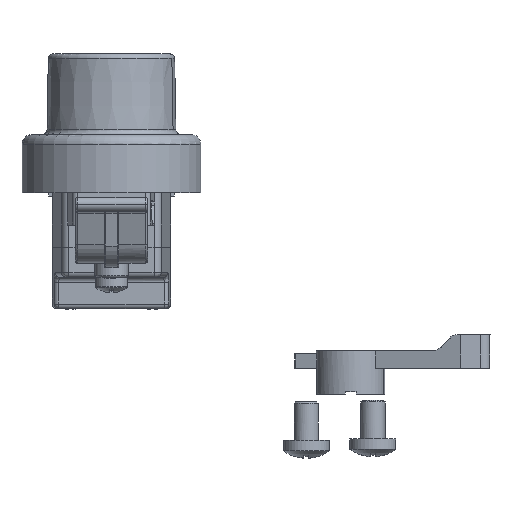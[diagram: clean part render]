
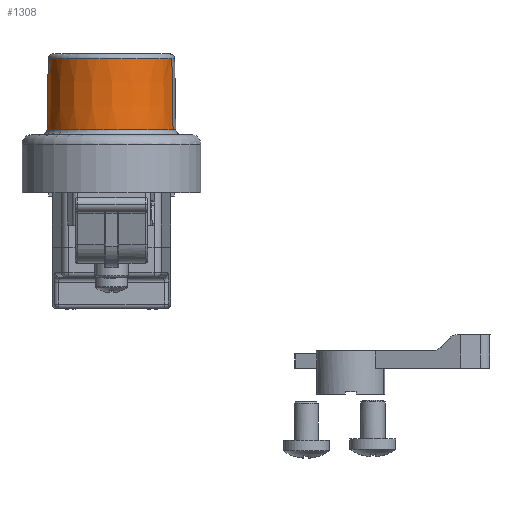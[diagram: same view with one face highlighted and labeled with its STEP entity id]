
A CAD part, front view. The second image highlights one B-rep face of the part: STEP entity #1308.
In plain terms, the highlighted conical face has half-angle 1 degrees and reference radius 13.093 mm.
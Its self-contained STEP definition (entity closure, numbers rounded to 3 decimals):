
#1308=ADVANCED_FACE('',(#5421),#5422,.T.);
#5421=FACE_OUTER_BOUND('',#24027,.T.);
#5422=CONICAL_SURFACE('',#24028,13.093,0.017);
#24027=EDGE_LOOP('',(#40450,#40451,#40452,#40453));
#24028=AXIS2_PLACEMENT_3D('',#40454,#40455,#40456);
#40450=ORIENTED_EDGE('',*,*,#59119,.F.);
#40451=ORIENTED_EDGE('',*,*,#59120,.T.);
#40452=ORIENTED_EDGE('',*,*,#59121,.T.);
#40453=ORIENTED_EDGE('',*,*,#59122,.F.);
#40454=CARTESIAN_POINT('',(157.607,149.494,156.68));
#40455=DIRECTION('',(0.,0.,-1.));
#40456=DIRECTION('',(0.956,-0.294,0.));
#59119=EDGE_CURVE('',#69025,#69026,#69027,.T.);
#59120=EDGE_CURVE('',#69025,#69028,#69029,.T.);
#59121=EDGE_CURVE('',#69028,#69030,#69031,.T.);
#59122=EDGE_CURVE('',#69026,#69030,#69032,.T.);
#69025=VERTEX_POINT('',#98392);
#69026=VERTEX_POINT('',#98393);
#69027=LINE('',#98394,#98395);
#69028=VERTEX_POINT('',#98396);
#69029=CIRCLE('',#98397,13.067);
#69030=VERTEX_POINT('',#98398);
#69031=LINE('',#98399,#98400);
#69032=CIRCLE('',#98401,13.324);
#98392=CARTESIAN_POINT('',(170.097,145.655,158.154));
#98393=CARTESIAN_POINT('',(170.343,145.579,143.419));
#98394=CARTESIAN_POINT('',(170.122,145.647,156.68));
#98395=VECTOR('',#120360,1.0);
#98396=CARTESIAN_POINT('',(144.539,149.494,158.154));
#98397=AXIS2_PLACEMENT_3D('',#120361,#120362,#120363);
#98398=CARTESIAN_POINT('',(144.282,149.494,143.419));
#98399=CARTESIAN_POINT('',(144.539,149.494,158.154));
#98400=VECTOR('',#120364,10.0);
#98401=AXIS2_PLACEMENT_3D('',#120365,#120366,#120367);
#120360=DIRECTION('',(0.017,-0.005,-1.));
#120361=CARTESIAN_POINT('',(157.607,149.494,158.154));
#120362=DIRECTION('',(0.,0.,-1.));
#120363=DIRECTION('',(-1.0,0.,0.));
#120364=DIRECTION('',(-0.017,0.,-1.));
#120365=CARTESIAN_POINT('',(157.607,149.494,143.419));
#120366=DIRECTION('',(0.,0.,-1.));
#120367=DIRECTION('',(-1.0,0.,0.));
